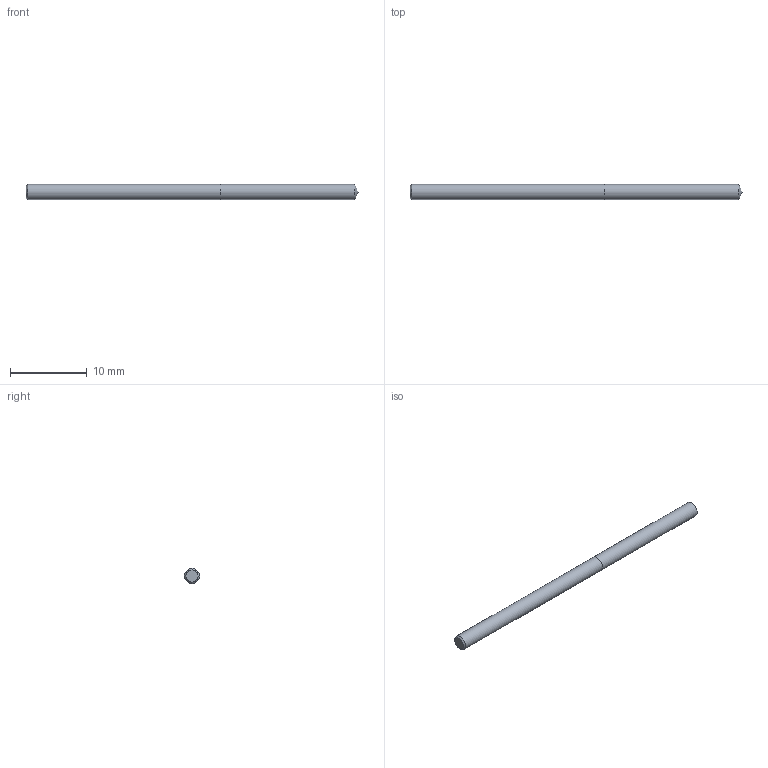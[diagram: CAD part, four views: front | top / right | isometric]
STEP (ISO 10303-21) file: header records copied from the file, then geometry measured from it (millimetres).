
FILE_DESCRIPTION (( 'STEP AP214' ), '1' );
FILE_NAME ('03-2404.STEP', '2022-06-03T07:19:08', ( 'USER' ), ( '' ), 'SwSTEP 2.0', 'SolidWorks 2018', '' );
FILE_SCHEMA (( 'AUTOMOTIVE_DESIGN' ));
Length unit declared in the file: inch
Products named in the file (1): 03-2404
Bounding box: 43.27 x 1.98 x 1.98 mm (x, y, z)
Volume: 132.9 mm3; surface area: 279.1 mm2
Topology: 2 solids, 2 shells, 7 faces, 11 edges, 7 vertices
Faces by surface type: plane 3, cylinder 2, cone 2
Full cylindrical faces by diameter (mm): 1.984 x2
Entity records: 214 total; most frequent: DIRECTION 26, CARTESIAN_POINT 18, AXIS2_PLACEMENT_3D 13, ORIENTED_EDGE 10, EDGE_LOOP 10, FACE_OUTER_BOUND 9, DIMENSIONAL_EXPONENTS 7, ADVANCED_FACE 7
